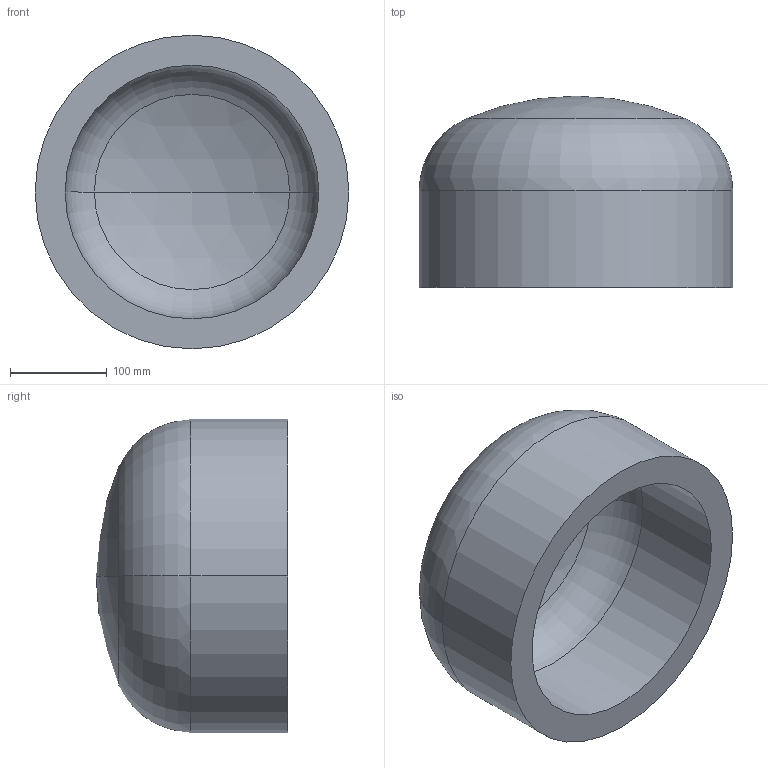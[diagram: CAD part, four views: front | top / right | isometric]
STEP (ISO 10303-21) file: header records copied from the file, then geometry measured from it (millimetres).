
FILE_DESCRIPTION (( 'STEP AP203' ), '1' );
FILE_NAME ('DIN 28013 Korbbogenform_-_Boden DIN 28013 - 323,9 x 100 - I - s=31.step', '2016-07-01T07:45:13', ( '' ), ( '' ), 'SwSTEP 2.0', 'SolidWorks 2013', '' );
FILE_SCHEMA (( 'CONFIG_CONTROL_DESIGN' ));
Length unit declared in the file: millimetre
Products named in the file (1): DIN 28013 Korbbogenform_-_Boden DIN 28013 - 323,9 x 100 - I - s=31
Bounding box: 323.9 x 197.75 x 323.9 mm (x, y, z)
Volume: 5997487 mm3; surface area: 417472.7 mm2
Topology: 1 solids, 1 shells, 13 faces, 24 edges, 14 vertices
Faces by surface type: torus 4, cylinder 4, sphere 4, plane 1
Entity records: 407 total; most frequent: DIRECTION 72, CARTESIAN_POINT 52, ORIENTED_EDGE 48, AXIS2_PLACEMENT_3D 34, EDGE_CURVE 24, CIRCLE 20, VERTEX_POINT 14, EDGE_LOOP 14
